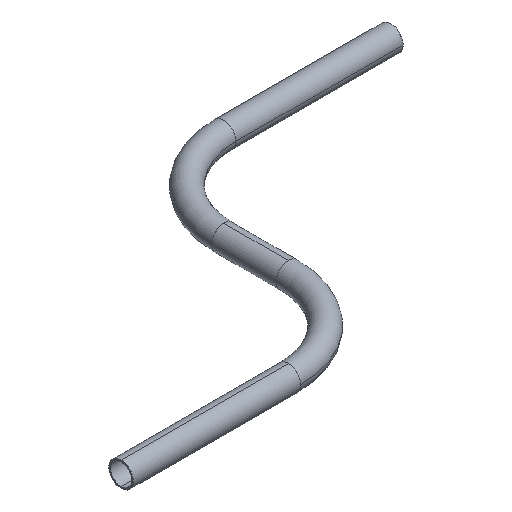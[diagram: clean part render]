
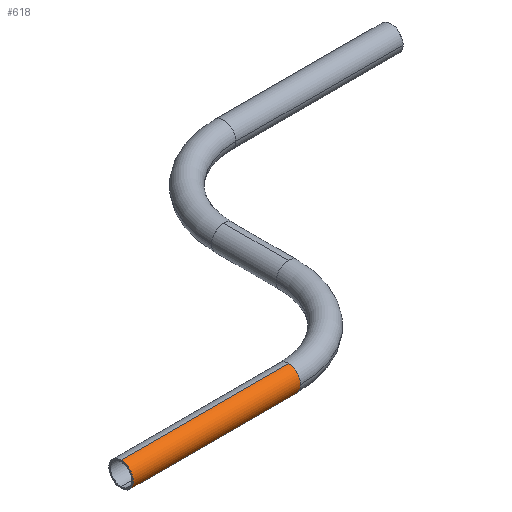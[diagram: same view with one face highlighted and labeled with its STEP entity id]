
A CAD part, isometric view. The second image highlights one B-rep face of the part: STEP entity #618.
In plain terms, the highlighted cylindrical face has radius 11 mm (diameter 22 mm), a partial arc.
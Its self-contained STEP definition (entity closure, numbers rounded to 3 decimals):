
#16 = AXIS2_PLACEMENT_3D ( 'NONE', #366, #602, #167 ) ;
#32 = DIRECTION ( 'NONE',  ( -1., 0., 0. ) ) ;
#35 = ORIENTED_EDGE ( 'NONE', *, *, #662, .T. ) ;
#38 = CARTESIAN_POINT ( 'NONE',  ( 150., 0., 11. ) ) ;
#49 = AXIS2_PLACEMENT_3D ( 'NONE', #116, #109, #104 ) ;
#65 = CARTESIAN_POINT ( 'NONE',  ( 0., 0., 11. ) ) ;
#104 = DIRECTION ( 'NONE',  ( 0., 0., -1. ) ) ;
#109 = DIRECTION ( 'NONE',  ( 1., 0., 0. ) ) ;
#112 = EDGE_CURVE ( 'NONE', #246, #237, #380, .T. ) ;
#116 = CARTESIAN_POINT ( 'NONE',  ( 150., 0., 0. ) ) ;
#122 = EDGE_CURVE ( 'NONE', #237, #143, #247, .T. ) ;
#143 = VERTEX_POINT ( 'NONE', #317 ) ;
#155 = CARTESIAN_POINT ( 'NONE',  ( 150., 0., 0. ) ) ;
#167 = DIRECTION ( 'NONE',  ( 0., 0., -1. ) ) ;
#194 = DIRECTION ( 'NONE',  ( 0., 0., -1. ) ) ;
#204 = ORIENTED_EDGE ( 'NONE', *, *, #122, .F. ) ;
#207 = LINE ( 'NONE', #38, #297 ) ;
#208 = EDGE_LOOP ( 'NONE', ( #204, #503, #414, #298, #35 ) ) ;
#210 = CARTESIAN_POINT ( 'NONE',  ( 150., 0., 0. ) ) ;
#237 = VERTEX_POINT ( 'NONE', #704 ) ;
#246 = VERTEX_POINT ( 'NONE', #326 ) ;
#247 = LINE ( 'NONE', #376, #740 ) ;
#255 = FACE_OUTER_BOUND ( 'NONE', #208, .T. ) ;
#262 = AXIS2_PLACEMENT_3D ( 'NONE', #155, #32, #304 ) ;
#297 = VECTOR ( 'NONE', #336, 1000. ) ;
#298 = ORIENTED_EDGE ( 'NONE', *, *, #458, .T. ) ;
#304 = DIRECTION ( 'NONE',  ( 0., 0., 1. ) ) ;
#317 = CARTESIAN_POINT ( 'NONE',  ( 0., 0., -11. ) ) ;
#324 = AXIS2_PLACEMENT_3D ( 'NONE', #210, #698, #194 ) ;
#326 = CARTESIAN_POINT ( 'NONE',  ( 150., -11., 0. ) ) ;
#336 = DIRECTION ( 'NONE',  ( -1., 0., 0. ) ) ;
#366 = CARTESIAN_POINT ( 'NONE',  ( 0., 0., 0. ) ) ;
#376 = CARTESIAN_POINT ( 'NONE',  ( 150., 0., -11. ) ) ;
#380 = CIRCLE ( 'NONE', #324, 11. ) ;
#382 = EDGE_CURVE ( 'NONE', #567, #246, #554, .T. ) ;
#389 = DIRECTION ( 'NONE',  ( -1., 0., 0. ) ) ;
#414 = ORIENTED_EDGE ( 'NONE', *, *, #382, .F. ) ;
#419 = CIRCLE ( 'NONE', #16, 11. ) ;
#458 = EDGE_CURVE ( 'NONE', #567, #472, #207, .T. ) ;
#472 = VERTEX_POINT ( 'NONE', #65 ) ;
#503 = ORIENTED_EDGE ( 'NONE', *, *, #112, .F. ) ;
#550 = CARTESIAN_POINT ( 'NONE',  ( 150., 0., 11. ) ) ;
#554 = CIRCLE ( 'NONE', #49, 11. ) ;
#567 = VERTEX_POINT ( 'NONE', #550 ) ;
#602 = DIRECTION ( 'NONE',  ( 1., 0., 0. ) ) ;
#618 = ADVANCED_FACE ( 'NONE', ( #255 ), #754, .T. ) ;
#662 = EDGE_CURVE ( 'NONE', #472, #143, #419, .T. ) ;
#698 = DIRECTION ( 'NONE',  ( 1., 0., 0. ) ) ;
#704 = CARTESIAN_POINT ( 'NONE',  ( 150., 0., -11. ) ) ;
#740 = VECTOR ( 'NONE', #389, 1000. ) ;
#754 = CYLINDRICAL_SURFACE ( 'NONE', #262, 11. ) ;
